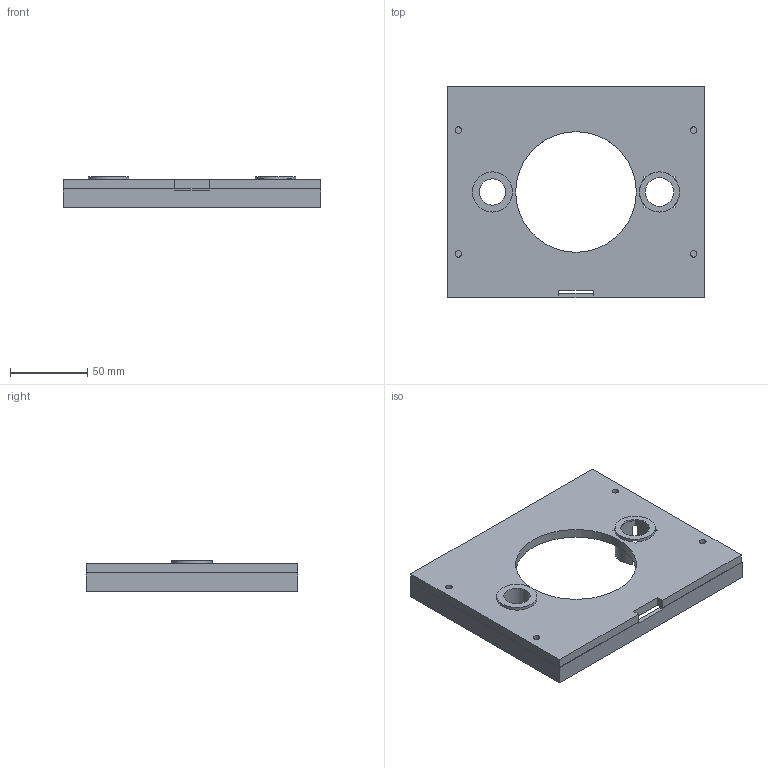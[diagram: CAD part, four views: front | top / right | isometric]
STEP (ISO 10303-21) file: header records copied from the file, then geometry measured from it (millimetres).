
FILE_DESCRIPTION(('Open CASCADE Model'),'2;1');
FILE_NAME('Open CASCADE Shape Model','2026-07-25T17:38:06',('Author'),( 'Open CASCADE'),'Open CASCADE STEP processor 7.9','build123d', 'Unknown');
FILE_SCHEMA(('AUTOMOTIVE_DESIGN { 1 0 10303 214 1 1 1 1 }'));
Length unit declared in the file: millimetre
Products named in the file (1): COMPOUND
Bounding box: 166.8 x 136.8 x 20 mm (x, y, z)
Volume: 129639.2 mm3; surface area: 59259 mm2
Topology: 1 solids, 1 shells, 51 faces, 150 edges, 100 vertices
Faces by surface type: plane 37, cylinder 14
Full cylindrical faces by diameter (mm): 4.2 x4, 17 x1, 18.5 x1, 26 x3, 78 x1
Entity records: 3588 total; most frequent: CARTESIAN_POINT 706, DIRECTION 486, ORIENTED_EDGE 300, PCURVE 300, DEFINITIONAL_REPRESENTATION 300, LINE 274, VECTOR 274, EDGE_CURVE 150
